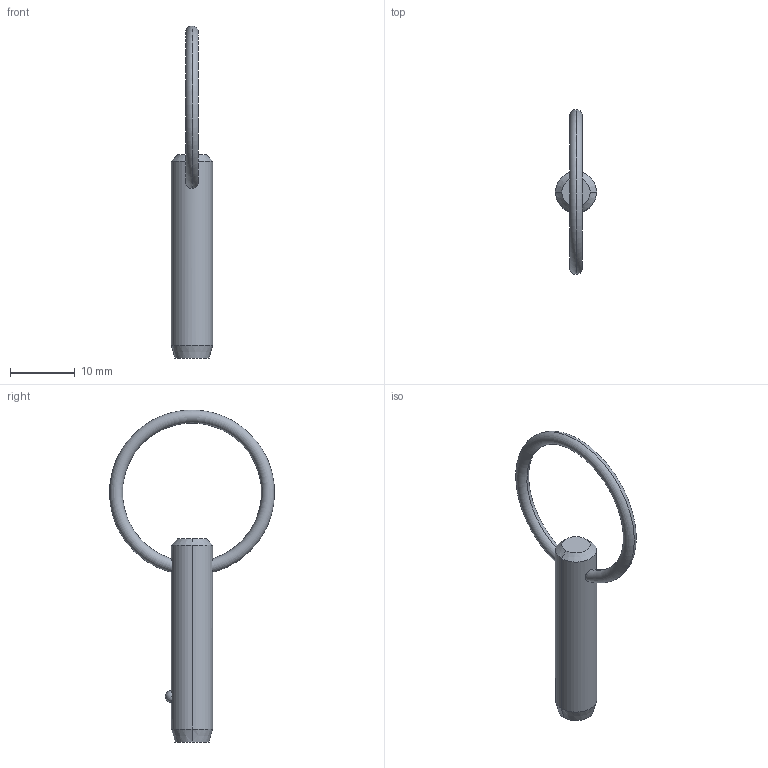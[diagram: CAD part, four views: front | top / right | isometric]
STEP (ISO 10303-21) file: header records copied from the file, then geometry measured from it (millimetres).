
FILE_DESCRIPTION (( 'STEP AP203' ), '1' );
FILE_NAME ('P1250.025-070.step', '2019-07-29T19:39:01', ( '' ), ( '' ), 'SwSTEP 2.0', 'SolidWorks 2017', '' );
FILE_SCHEMA (( 'CONFIG_CONTROL_DESIGN' ));
Length unit declared in the file: millimetre
Products named in the file (1): P1250.025-070
Bounding box: 6.35 x 25.38 x 51.12 mm (x, y, z)
Volume: 1184.9 mm3; surface area: 1081.8 mm2
Topology: 1 solids, 1 shells, 12 faces, 28 edges, 17 vertices
Faces by surface type: cone 4, torus 2, sphere 2, cylinder 2, plane 2
Entity records: 481 total; most frequent: CARTESIAN_POINT 148, DIRECTION 56, ORIENTED_EDGE 48, AXIS2_PLACEMENT_3D 25, EDGE_CURVE 24, VERTEX_POINT 15, EDGE_LOOP 15, CIRCLE 12
